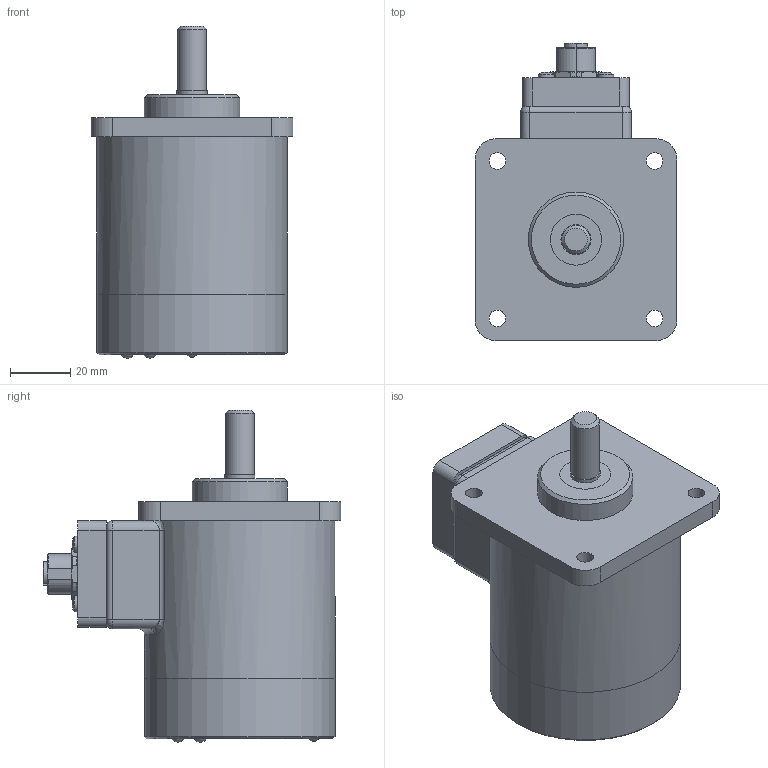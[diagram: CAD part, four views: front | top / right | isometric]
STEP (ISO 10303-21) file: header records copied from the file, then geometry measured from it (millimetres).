
FILE_DESCRIPTION(/* description */ ('Alibre Inc.'),/* implementation_level */ '2;1');
FILE_NAME(/* name */ 'export0',/* time_stamp */ '2010-05-25T09:11:17-04:00',/* author */ (''),/* organization */ (''),/* preprocessor_version */ 'ST-DEVELOPER v10',/* originating_system */ 'Alibre',/* authorisation */ '');
FILE_SCHEMA (('CONFIG_CONTROL_DESIGN'));
Length unit declared in the file: centimetre
Products named in the file (14): ID_1; ID_2; ID_3; ID_4; ID_5; ID_6; ID_7; ID_8; ID_9; ID_10; ID_11
Bounding box: 67.31 x 99.13 x 110.63 mm (x, y, z)
Volume: 296776.5 mm3; surface area: 54440.6 mm2
Topology: 15 solids, 15 shells, 336 faces, 745 edges, 481 vertices
Faces by surface type: plane 111, cylinder 105, bspline 72, cone 36, torus 8, sphere 4
Full cylindrical faces by diameter (mm): 2.87 x4, 2.92 x2, 3 x21, 3.96 x4, 5.44 x4, 5.537 x4, 9.525 x1, 10 x3, 11.5 x2, 17 x2, 24 x1, 26 x2, 31.75 x1, 58.72 x2, 63.5 x2
Entity records: 9326 total; most frequent: CARTESIAN_POINT 2364, DIRECTION 1107, ORIENTED_EDGE 1020, AXIS2_PLACEMENT_3D 514, EDGE_CURVE 510, EDGE_LOOP 379, FACE_BOUND 379, VERTEX_POINT 359
